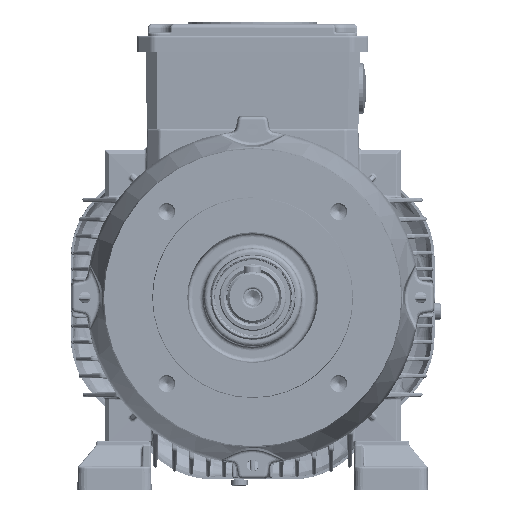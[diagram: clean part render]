
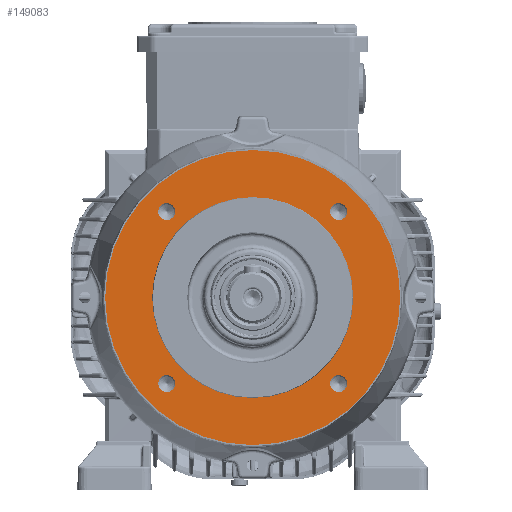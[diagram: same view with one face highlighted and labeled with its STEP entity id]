
A CAD part, left-side view. The second image highlights one B-rep face of the part: STEP entity #149083.
In plain terms, the highlighted planar face has unit normal (-1, 0, 0).
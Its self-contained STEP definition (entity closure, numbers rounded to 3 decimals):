
#46839=PLANE('',#192658);
#57491=EDGE_LOOP('',(#102357));
#57492=EDGE_LOOP('',(#102358));
#57493=EDGE_LOOP('',(#102359));
#57494=EDGE_LOOP('',(#102360));
#57495=EDGE_LOOP('',(#102361));
#57496=EDGE_LOOP('',(#102362));
#102357=ORIENTED_EDGE('',*,*,#131965,.T.);
#102358=ORIENTED_EDGE('',*,*,#131966,.T.);
#102359=ORIENTED_EDGE('',*,*,#131967,.T.);
#102360=ORIENTED_EDGE('',*,*,#131968,.T.);
#102361=ORIENTED_EDGE('',*,*,#131969,.T.);
#102362=ORIENTED_EDGE('',*,*,#131970,.F.);
#131965=EDGE_CURVE('',#165419,#165419,#174871,.T.);
#131966=EDGE_CURVE('',#165420,#165420,#174872,.T.);
#131967=EDGE_CURVE('',#165421,#165421,#174873,.T.);
#131968=EDGE_CURVE('',#165422,#165422,#174874,.T.);
#131969=EDGE_CURVE('',#165423,#165423,#174875,.T.);
#131970=EDGE_CURVE('',#165424,#165424,#174876,.T.);
#149083=ADVANCED_FACE('',(#152374,#152375,#152376,#152377,#152378,#152379),
#46839,.T.);
#152374=FACE_BOUND('',#57491,.T.);
#152375=FACE_BOUND('',#57492,.T.);
#152376=FACE_BOUND('',#57493,.T.);
#152377=FACE_BOUND('',#57494,.T.);
#152378=FACE_BOUND('',#57495,.T.);
#152379=FACE_BOUND('',#57496,.T.);
#165419=VERTEX_POINT('',#382330);
#165420=VERTEX_POINT('',#382332);
#165421=VERTEX_POINT('',#382334);
#165422=VERTEX_POINT('',#382336);
#165423=VERTEX_POINT('',#382338);
#165424=VERTEX_POINT('',#382340);
#174871=CIRCLE('',#192652,4.);
#174872=CIRCLE('',#192653,4.);
#174873=CIRCLE('',#192654,4.);
#174874=CIRCLE('',#192655,4.);
#174875=CIRCLE('',#192656,47.5);
#174876=CIRCLE('',#192657,69.75);
#192652=AXIS2_PLACEMENT_3D('',#382329,#233996,#233997);
#192653=AXIS2_PLACEMENT_3D('',#382331,#233998,#233999);
#192654=AXIS2_PLACEMENT_3D('',#382333,#234000,#234001);
#192655=AXIS2_PLACEMENT_3D('',#382335,#234002,#234003);
#192656=AXIS2_PLACEMENT_3D('',#382337,#234004,#234005);
#192657=AXIS2_PLACEMENT_3D('',#382339,#234006,#234007);
#192658=AXIS2_PLACEMENT_3D('',#382341,#234008,#234009);
#233996=DIRECTION('',(1.,0.,0.));
#233997=DIRECTION('',(0.,0.,1.));
#233998=DIRECTION('',(1.,0.,0.));
#233999=DIRECTION('',(0.,0.,1.));
#234000=DIRECTION('',(1.,0.,0.));
#234001=DIRECTION('',(0.,0.,1.));
#234002=DIRECTION('',(1.,0.,0.));
#234003=DIRECTION('',(0.,0.,1.));
#234004=DIRECTION('',(1.,0.,0.));
#234005=DIRECTION('',(0.,0.,-1.));
#234006=DIRECTION('',(1.,0.,0.));
#234007=DIRECTION('',(0.,0.,-1.));
#234008=DIRECTION('',(-1.,0.,0.));
#234009=DIRECTION('',(0.,0.,1.));
#382329=CARTESIAN_POINT('',(-51.499,58.928,123.069));
#382330=CARTESIAN_POINT('',(-51.499,58.928,127.069));
#382331=CARTESIAN_POINT('',(-51.499,58.929,41.752));
#382332=CARTESIAN_POINT('',(-51.499,58.929,45.752));
#382333=CARTESIAN_POINT('',(-51.499,-22.389,41.752));
#382334=CARTESIAN_POINT('',(-51.499,-22.389,45.752));
#382335=CARTESIAN_POINT('',(-51.499,-22.389,123.069));
#382336=CARTESIAN_POINT('',(-51.499,-22.389,127.069));
#382337=CARTESIAN_POINT('',(-51.499,18.27,82.411));
#382338=CARTESIAN_POINT('',(-51.499,18.27,34.911));
#382339=CARTESIAN_POINT('',(-51.499,18.27,82.411));
#382340=CARTESIAN_POINT('',(-51.499,18.27,12.661));
#382341=CARTESIAN_POINT('',(-51.499,18.27,82.411));
